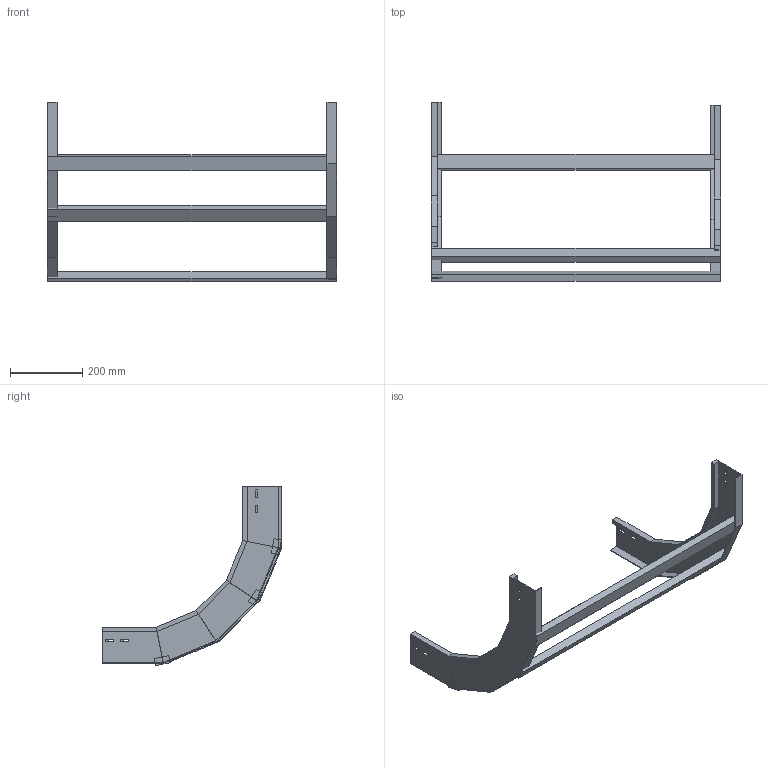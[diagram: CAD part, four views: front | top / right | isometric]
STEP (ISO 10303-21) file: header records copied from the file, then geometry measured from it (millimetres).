
FILE_DESCRIPTION (( 'STEP AP214' ), '1' );
FILE_NAME ('A2X30B3D800XX.step', '2025-04-02T09:04:45', ( '' ), ( '' ), 'SwSTEP 2.0', 'SolidWorks 2023', '' );
FILE_SCHEMA (( 'AUTOMOTIVE_DESIGN' ));
Length unit declared in the file: millimetre
Products named in the file (3): A2X30B3D800XX; LONGH.SALITA_90°_H100_R300; TRAVERSINO_800
Assembly tree (5 placements, depth 2):
  A2X30B3D800XX
    LONGH.SALITA_90°_H100_R300  x2
    TRAVERSINO_800  x3
Bounding box: 800 x 497.32 x 495.32 mm (x, y, z)
Volume: 2562586.2 mm3; surface area: 717853.5 mm2
Topology: 5 solids, 5 shells, 134 faces, 308 edges, 184 vertices
Faces by surface type: plane 134
Entity records: 1864 total; most frequent: CARTESIAN_POINT 308, ORIENTED_EDGE 296, DIRECTION 292, LINE 148, EDGE_CURVE 148, VECTOR 148, VERTEX_POINT 88, EDGE_LOOP 72
